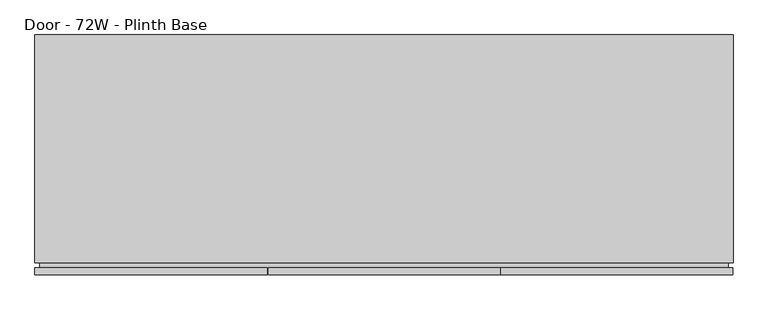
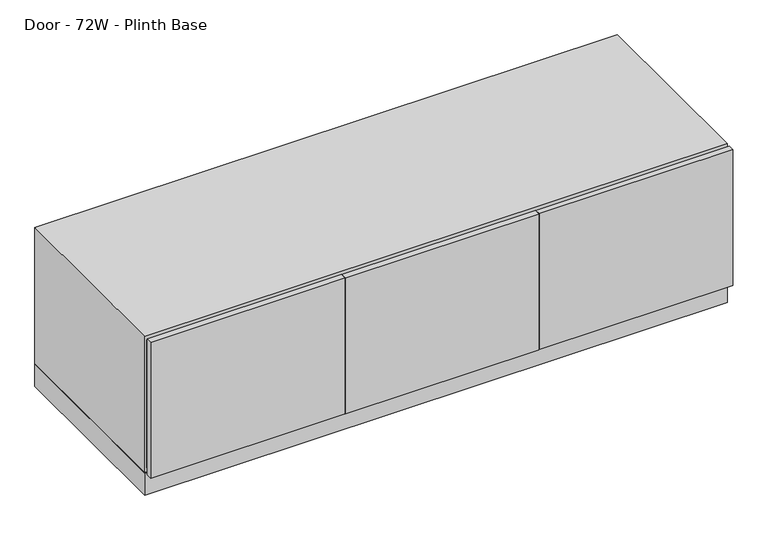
"""IFC4 building model written with IfcOpenShell, lengths in millimetres: furniture geometry, Steelcase Coalesse - Exponents - Storage - Credenza - 21H : Door - 72W - Plinth Base."""

from ifc_helpers import new_model, si_unit, point, frame, frame_2d, origin, origin_with_axes, place, context, project, spatial, polyline, circle_curve, trimmed, segment, composite_curve, outline, extrude, faceted_brep, source, transform, mapped, element, save


def door_72w_plinth_base_27c9e5c9(model_context):
    return source(origin(), model_context, "Body", "SolidModel", [
        faceted_brep([(6.35, 31.75, 520.7), (6.35, 31.75, 95.25), (6.35, 622.3, 95.25), (6.35, 622.3, 520.7), (1822.45, 622.3, 95.25), (1822.45, 622.3, 520.7), (1822.45, 31.75, 95.25), (1822.45, 31.75, 520.7), (0.0, 31.75, 82.55), (1828.8, 31.75, 82.55), (1828.8, 31.75, 533.4), (0.0, 31.75, 533.4), (1828.8, 628.65, 82.55), (1828.8, 628.65, 533.4), (0.0, 628.65, 82.55), (0.0, 628.65, 533.4)], [[[0, 1, 2, 3]], [[3, 2, 4, 5]], [[5, 4, 6, 7]], [[8, 9, 10, 11], [7, 6, 1, 0]], [[10, 9, 12, 13]], [[13, 12, 14, 15]], [[15, 14, 8, 11]], [[7, 0, 3, 5]], [[10, 13, 15, 11]], [[1, 6, 4, 2]], [[12, 9, 8, 14]]]),
        extrude(outline(polyline([(520.7, 1816.1), (520.7, 12.7), (95.25, 12.7), (95.25, 1816.1), (520.7, 1816.1)]), holes=[polyline([(514.35, 1809.75), (101.6, 1809.75), (101.6, 19.05), (514.35, 19.05), (514.35, 1809.75)])]), frame((0.0, 19.05, 0.0), z_axis=(0.0, 1.0, 0.0), x_axis=(0.0, 0.0, 1.0)), (0.0, 0.0, 1.0), 31.75),
        extrude(outline(composite_curve([segment(trimmed(circle_curve(frame_2d((19.05, 593.5667033)), 6.35), [point((12.7, 593.5667033))], [point((25.4, 593.5667033))], False, "CARTESIAN"), True, "CONTINUOUS"), segment(trimmed(circle_curve(frame_2d((19.05, 593.5667033)), 6.35), [point((25.4, 593.5667033))], [point((12.7, 593.5667033))], False, "CARTESIAN"), True, "CONTINUOUS")], self_intersect=False)), origin_with_axes(), (0.0, 0.0, 1.0), 6.35),
        extrude(outline(composite_curve([segment(trimmed(circle_curve(frame_2d((19.05, 66.7867854)), 6.35), [point((12.7, 66.7867854))], [point((25.4, 66.7867854))], False, "CARTESIAN"), True, "CONTINUOUS"), segment(trimmed(circle_curve(frame_2d((19.05, 66.7867854)), 6.35), [point((25.4, 66.7867854))], [point((12.7, 66.7867854))], False, "CARTESIAN"), True, "CONTINUOUS")], self_intersect=False)), origin_with_axes(), (0.0, 0.0, 1.0), 6.35),
        extrude(outline(composite_curve([segment(trimmed(circle_curve(frame_2d((1809.75, 593.5667033)), 6.35), [point((1803.4, 593.5667033))], [point((1816.1, 593.5667033))], False, "CARTESIAN"), True, "CONTINUOUS"), segment(trimmed(circle_curve(frame_2d((1809.75, 593.5667033)), 6.35), [point((1816.1, 593.5667033))], [point((1803.4, 593.5667033))], False, "CARTESIAN"), True, "CONTINUOUS")], self_intersect=False)), origin_with_axes(), (0.0, 0.0, 1.0), 6.35),
        extrude(outline(composite_curve([segment(trimmed(circle_curve(frame_2d((1809.75, 66.7867854)), 6.35), [point((1803.4, 66.7867854))], [point((1816.1, 66.7867854))], False, "CARTESIAN"), True, "CONTINUOUS"), segment(trimmed(circle_curve(frame_2d((1809.75, 66.7867854)), 6.35), [point((1816.1, 66.7867854))], [point((1803.4, 66.7867854))], False, "CARTESIAN"), True, "CONTINUOUS")], self_intersect=False)), origin_with_axes(), (0.0, 0.0, 1.0), 6.35),
        extrude(outline(polyline([(1827.8348, 19.05), (1827.8348, 0.0), (1220.0128, 0.0), (1220.0128, 19.05), (1827.8348, 19.05)])), frame((0.0, 0.0, 82.55), z_axis=(0.0, 0.0, 1.0), x_axis=(1.0, 0.0, 0.0)), (0.0, 0.0, 1.0), 450.85),
        extrude(outline(polyline([(1218.4126, 19.05), (1218.4126, 0.0), (610.5652, 0.0), (610.5652, 19.05), (1218.4126, 19.05)])), frame((0.0, 0.0, 82.55), z_axis=(0.0, 0.0, 1.0), x_axis=(1.0, 0.0, 0.0)), (0.0, 0.0, 1.0), 450.85),
        extrude(outline(polyline([(608.965, 19.05), (608.965, 0.0), (0.0, 0.0), (0.0, 19.05), (608.965, 19.05)])), frame((0.0, 0.0, 82.55), z_axis=(0.0, 0.0, 1.0), x_axis=(1.0, 0.0, 0.0)), (0.0, 0.0, 1.0), 450.85),
        extrude(outline(polyline([(0.0, -19.05), (0.0, 0.0), (31.75, 0.0), (31.75, -19.05), (0.0, -19.05)])), frame((1209.675, 19.05, 101.6), z_axis=(3.1477043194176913e-12, 0.0, 1.0), x_axis=(0.0, 1.0, 0.0)), (0.0, 0.0, 1.0), 412.75),
        extrude(outline(polyline([(0.0, -19.05), (0.0, 0.0), (31.75, 0.0), (31.75, -19.05), (0.0, -19.05)])), frame((590.55, 19.05, 101.6), z_axis=(3.3608671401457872e-12, 0.0, 1.0), x_axis=(0.0, 1.0, 0.0)), (0.0, 0.0, 1.0), 412.75),
        extrude(outline(polyline([(1209.675, 609.6), (1228.725, 609.6), (1228.725, 50.8), (1209.675, 50.8), (1209.675, 609.6)])), frame((0.0, 0.0, 95.25), z_axis=(0.0, 0.0, 1.0), x_axis=(1.0, 0.0, 0.0)), (0.0, 0.0, 1.0), 425.45),
        extrude(outline(polyline([(1209.675, 50.8), (609.6, 50.8), (609.6, 609.6), (1209.675, 609.6), (1209.675, 50.8)])), frame((0.0, 0.0, 295.275), z_axis=(0.0, 0.0, 1.0), x_axis=(1.0, 0.0, 0.0)), (0.0, 0.0, 1.0), 19.05),
        extrude(outline(polyline([(1828.8, 628.65), (1828.8, 31.75), (0.0, 31.75), (0.0, 628.65), (1828.8, 628.65)]), holes=[polyline([(1809.75, 622.3), (19.05, 622.3), (19.05, 38.1), (1809.75, 38.1), (1809.75, 622.3)])]), frame((0.0, 0.0, 6.35), z_axis=(0.0, 0.0, 1.0), x_axis=(1.0, 0.0, 0.0)), (0.0, 0.0, 1.0), 73.4568),
        extrude(outline(polyline([(590.55, 609.6), (609.6, 609.6), (609.6, 50.8), (590.55, 50.8), (590.55, 609.6)])), frame((0.0, 0.0, 95.25), z_axis=(0.0, 0.0, 1.0), x_axis=(1.0, 0.0, 0.0)), (0.0, 0.0, 1.0), 425.45),
    ])


if __name__ == "__main__":
    model = new_model("IFC4")
    model_context = context("Model", 3, world=origin())
    ifc_project = project(units=[si_unit("LENGTHUNIT", "METRE", prefix="MILLI")], contexts=[model_context])
    site = spatial("IfcSite", under=ifc_project)
    building = spatial("IfcBuilding", under=site)
    placement = place(None, origin())
    door_72w_plinth_base_shape = door_72w_plinth_base_27c9e5c9(model_context)
    element("IfcFurniture", 1, ObjectType="Steelcase Coalesse - Exponents - Storage - Credenza - 21H : Door - 72W - Plinth Base", at=placement, inside=building, context=model_context, shape_type="MappedRepresentation", body=[
        mapped(door_72w_plinth_base_shape, transform((0.0, 0.0, 0.0), x_axis=(1.0, 0.0, 0.0), y_axis=(0.0, 1.0, 0.0), z_axis=(0.0, 0.0, 1.0))),
    ])
    save(model, "model.ifc")
